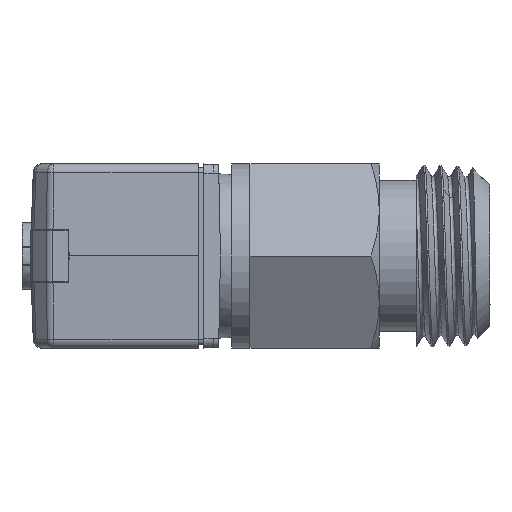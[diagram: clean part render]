
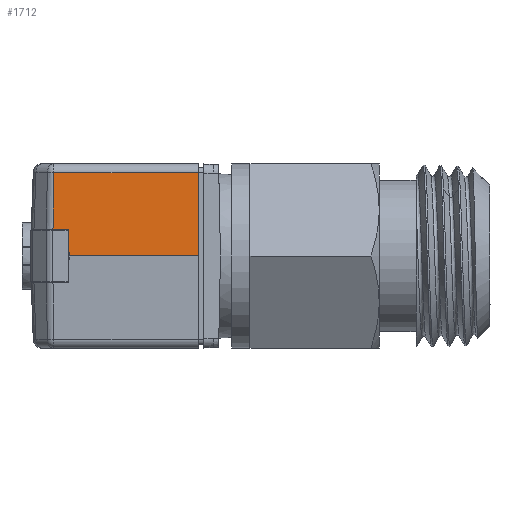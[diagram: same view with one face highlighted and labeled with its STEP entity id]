
A CAD part, left-side view. The second image highlights one B-rep face of the part: STEP entity #1712.
In plain terms, the highlighted planar face has unit normal (-0.999, 0, 0.035).
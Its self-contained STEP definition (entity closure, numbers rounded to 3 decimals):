
#1712=ADVANCED_FACE('',(#3513),#3514,.T.);
#3513=FACE_OUTER_BOUND('',#7197,.T.);
#3514=PLANE('',#7198);
#7197=EDGE_LOOP('',(#14015,#14016,#14017,#14018,#14019,#14020));
#7198=AXIS2_PLACEMENT_3D('',#14021,#14022,#14023);
#14015=ORIENTED_EDGE('',*,*,#16712,.T.);
#14016=ORIENTED_EDGE('',*,*,#16626,.T.);
#14017=ORIENTED_EDGE('',*,*,#16619,.F.);
#14018=ORIENTED_EDGE('',*,*,#16616,.F.);
#14019=ORIENTED_EDGE('',*,*,#16710,.T.);
#14020=ORIENTED_EDGE('',*,*,#16713,.T.);
#14021=CARTESIAN_POINT('',(-10.0,10.446,0.0));
#14022=DIRECTION('',(-0.999,0.0,0.035));
#14023=DIRECTION('',(0.0,1.0,0.0));
#16616=EDGE_CURVE('',#19676,#19678,#19679,.T.);
#16619=EDGE_CURVE('',#19678,#19682,#19683,.T.);
#16626=EDGE_CURVE('',#19688,#19682,#19692,.T.);
#16710=EDGE_CURVE('',#19676,#19742,#19804,.T.);
#16712=EDGE_CURVE('',#19806,#19688,#19807,.T.);
#16713=EDGE_CURVE('',#19742,#19806,#19808,.T.);
#19676=VERTEX_POINT('',#25704);
#19678=VERTEX_POINT('',#25707);
#19679=LINE('',#25708,#25709);
#19682=VERTEX_POINT('',#25712);
#19683=LINE('',#25713,#25714);
#19688=VERTEX_POINT('',#25719);
#19692=LINE('',#25724,#25725);
#19742=VERTEX_POINT('',#25794);
#19804=LINE('',#25885,#25886);
#19806=VERTEX_POINT('',#25888);
#19807=LINE('',#25889,#25890);
#19808=LINE('',#25891,#25892);
#25704=CARTESIAN_POINT('',(-9.949,7.039,1.45));
#25707=CARTESIAN_POINT('',(-9.949,7.872,1.45));
#25708=CARTESIAN_POINT('',(-9.949,7.039,1.45));
#25709=VECTOR('',#29290,1.0);
#25712=CARTESIAN_POINT('',(-9.842,7.828,4.517));
#25713=CARTESIAN_POINT('',(-9.949,7.872,1.45));
#25714=VECTOR('',#29294,1.0);
#25719=CARTESIAN_POINT('',(-9.842,0.0,4.517));
#25724=CARTESIAN_POINT('',(-9.842,0.0,4.517));
#25725=VECTOR('',#29305,1.0);
#25794=CARTESIAN_POINT('',(-10.0,6.999,0.));
#25885=CARTESIAN_POINT('',(-9.949,7.039,1.45));
#25886=VECTOR('',#29377,1.0);
#25888=CARTESIAN_POINT('',(-10.0,0.0,0.));
#25889=CARTESIAN_POINT('',(-10.0,0.0,0.));
#25890=VECTOR('',#29378,1.0);
#25891=CARTESIAN_POINT('',(-10.0,6.999,0.));
#25892=VECTOR('',#29379,1.0);
#29290=DIRECTION('',(0.,1.0,0.));
#29294=DIRECTION('',(0.035,-0.014,0.999));
#29305=DIRECTION('',(0.0,1.0,0.));
#29377=DIRECTION('',(-0.035,-0.027,-0.999));
#29378=DIRECTION('',(0.035,0.0,0.999));
#29379=DIRECTION('',(0.0,-1.0,0.));
